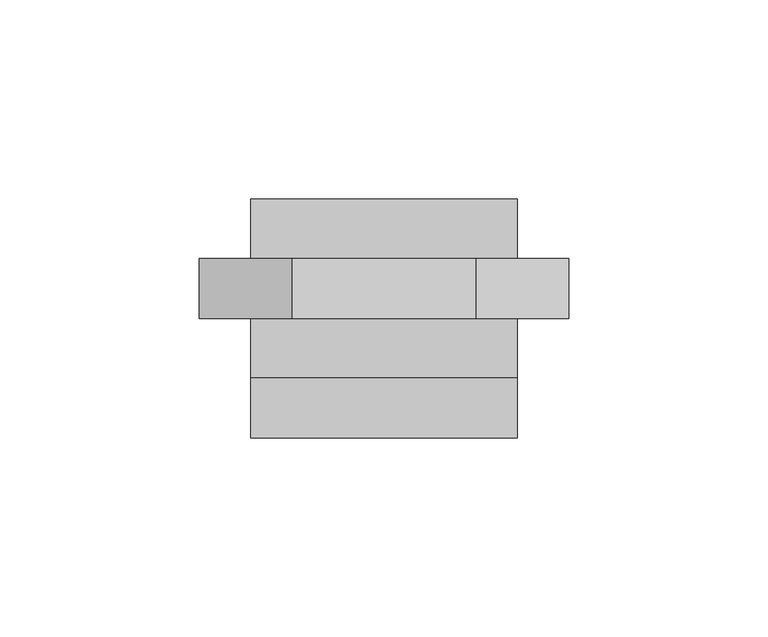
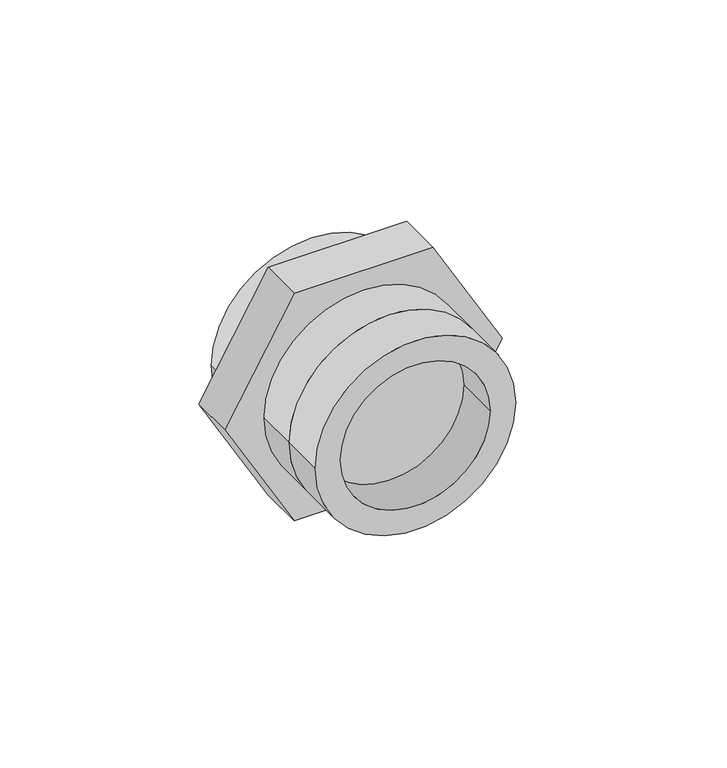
"""IFC4 building model written with IfcOpenShell, lengths in millimetres: pipe fitting geometry, EGB_VASEN_ PPR_Enlace desmontable soldar soldar WXR109 : Enlace desmontable soldar-soldar WXR109."""

import ifcopenshell
import ifcopenshell.guid

model = None  # the IFC model being written
_history = None  # IfcOwnerHistory: only IFC2X3 demands one
_inside = {}  # id of a spatial element -> (the spatial element, [elements in it])
_under = {}  # id of a project, library or spatial element -> (it, [spatial elements below it])
_declared = {}  # id of a project -> (the project, [libraries it declares])
_typed = {}  # id of a type object -> (the type object, [elements of that type])
_made_of = {}  # id of a material, layer set ... -> (it, [elements and type objects made of it])


def new_model(schema):
    """Start an empty IFC model of exactly this schema.

    Asked for "IFC4X3", IfcOpenShell would pick the latest addendum, in which some entities
    have other attributes; the version numbers below select the first issue.
    IFC2X3 requires an IfcOwnerHistory on every rooted entity: one is made here for all.
    """
    global model, _history
    if schema == "IFC4X3":
        model = ifcopenshell.file(schema_version=(4, 3, 0, 0))
    else:
        model = ifcopenshell.file(schema=schema)
    _inside.clear()
    _under.clear()
    _declared.clear()
    _typed.clear()
    _made_of.clear()
    _history = None
    if model.schema == "IFC2X3":
        org = make("IfcOrganization", Name="unknown")
        user = make(
            "IfcPersonAndOrganization",
            ThePerson=make("IfcPerson", FamilyName="unknown"),
            TheOrganization=org,
        )
        app = make(
            "IfcApplication",
            ApplicationDeveloper=org,
            Version="unknown",
            ApplicationFullName="unknown",
            ApplicationIdentifier="unknown",
        )
        _history = make(
            "IfcOwnerHistory",
            OwningUser=user,
            OwningApplication=app,
            ChangeAction="ADDED",
            CreationDate=0,
        )
    return model


def make(cls, **values):
    """One entity of the class cls with the attributes given. An attribute that is None is left unset."""
    return model.create_entity(
        cls, **{name: value for name, value in values.items() if value is not None}
    )


def rooted(cls, **values):
    """An entity with a GlobalId (a new one), such as an element, a storey or a relation."""
    return make(cls, GlobalId=ifcopenshell.guid.new(), OwnerHistory=_history, **values)


def si_unit(unit_type, name, prefix=None):
    """IfcSIUnit, for example si_unit("LENGTHUNIT", "METRE", prefix="MILLI")."""
    return make("IfcSIUnit", UnitType=unit_type, Prefix=prefix, Name=name)


def assignment(units):
    """IfcUnitAssignment: the units of a project."""
    return None if units is None else make("IfcUnitAssignment", Units=units)


def point(xyz):
    """IfcCartesianPoint."""
    return None if xyz is None else make("IfcCartesianPoint", Coordinates=xyz)


def direction(xyz):
    """IfcDirection."""
    return None if xyz is None else make("IfcDirection", DirectionRatios=xyz)


def frame(location, z_axis=None, x_axis=None):
    """IfcAxis2Placement3D, a coordinate frame: its origin and axes. An axis left out is left unset."""
    return make(
        "IfcAxis2Placement3D",
        Location=point(location),
        Axis=direction(z_axis),
        RefDirection=direction(x_axis),
    )


def frame_2d(location, x_axis=None):
    """IfcAxis2Placement2D, a coordinate frame in the plane: its origin and x axis."""
    return make(
        "IfcAxis2Placement2D", Location=point(location), RefDirection=direction(x_axis)
    )


def origin():
    """The frame at (0, 0, 0) with its axes left unset."""
    return frame((0.0, 0.0, 0.0))


def origin_2d():
    """The frame at (0, 0) in the plane with its x axis left unset."""
    return frame_2d((0.0, 0.0))


def place(relative_to, where):
    """IfcLocalPlacement: puts the frame where relative to a parent placement (None: the world)."""
    return make(
        "IfcLocalPlacement", PlacementRelTo=relative_to, RelativePlacement=where
    )


def context(
    kind, dimensions, precision=None, world=None, true_north=None, identifier=None
):
    """IfcGeometricRepresentationContext, for example the 3D "Model" context."""
    return make(
        "IfcGeometricRepresentationContext",
        ContextIdentifier=identifier,
        ContextType=kind,
        CoordinateSpaceDimension=dimensions,
        Precision=precision,
        WorldCoordinateSystem=world,
        TrueNorth=true_north,
    )


def project(units=None, contexts=None):
    """IfcProject with its units and contexts."""
    return rooted(
        "IfcProject",
        Name="project",
        RepresentationContexts=contexts,
        UnitsInContext=assignment(units),
    )


def spatial(cls, under=None, at=None, **own):
    """A site, building, storey or space (cls), placed at a placement, below another one or the project."""
    s = rooted(cls, ObjectPlacement=at, **own)
    if under is not None:
        _under.setdefault(under.id(), (under, []))[1].append(s)
    return s


def polyline(points):
    """IfcPolyline through the points."""
    return make("IfcPolyline", Points=[point(p) for p in points])


def circle_curve(where, radius):
    """IfcCircle in the frame where."""
    return make("IfcCircle", Position=where, Radius=radius)


def trimmed(basis, trim1, trim2, sense, master):
    """IfcTrimmedCurve: the piece of a basis curve between two trims."""
    return make(
        "IfcTrimmedCurve",
        BasisCurve=basis,
        Trim1=trim1,
        Trim2=trim2,
        SenseAgreement=sense,
        MasterRepresentation=master,
    )


def segment(curve, same_sense, transition):
    """IfcCompositeCurveSegment."""
    return make(
        "IfcCompositeCurveSegment",
        Transition=transition,
        SameSense=same_sense,
        ParentCurve=curve,
    )


def composite_curve(segments, self_intersect=None):
    """IfcCompositeCurve: segments joined end to end."""
    return make("IfcCompositeCurve", Segments=segments, SelfIntersect=self_intersect)


def outline(outer, holes=None, kind="AREA"):
    """IfcArbitraryClosedProfileDef: a profile drawn as a closed curve; with holes, ...WithVoids."""
    if holes is None:
        return make("IfcArbitraryClosedProfileDef", ProfileType=kind, OuterCurve=outer)
    return make(
        "IfcArbitraryProfileDefWithVoids",
        ProfileType=kind,
        OuterCurve=outer,
        InnerCurves=holes,
    )


def extrude(swept, where, along, depth):
    """IfcExtrudedAreaSolid: the profile swept, set in the frame where, extruded along a direction by depth."""
    return make(
        "IfcExtrudedAreaSolid",
        SweptArea=swept,
        Position=where,
        ExtrudedDirection=direction(along),
        Depth=depth,
    )


def shape(context_of_items, identifier, shape_type, items):
    """IfcShapeRepresentation: the items that make up one representation, for example the "Body"."""
    return make(
        "IfcShapeRepresentation",
        ContextOfItems=context_of_items,
        RepresentationIdentifier=identifier,
        RepresentationType=shape_type,
        Items=items,
    )


def source(mapping_origin, context_of_items, identifier, shape_type, items):
    """IfcRepresentationMap: a shape defined once, which mapped items show again and again."""
    return make(
        "IfcRepresentationMap",
        MappingOrigin=mapping_origin,
        MappedRepresentation=shape(context_of_items, identifier, shape_type, items),
    )


def transform(
    local_origin,
    x_axis=None,
    y_axis=None,
    z_axis=None,
    scale=None,
    scale2=None,
    scale3=None,
    uniform=True,
):
    """IfcCartesianTransformationOperator3D, or its non-uniform kind. x_axis, y_axis, z_axis: its Axis1, 2, 3."""
    if uniform:
        return make(
            "IfcCartesianTransformationOperator3D",
            Axis1=direction(x_axis),
            Axis2=direction(y_axis),
            LocalOrigin=point(local_origin),
            Scale=scale,
            Axis3=direction(z_axis),
        )
    return make(
        "IfcCartesianTransformationOperator3DnonUniform",
        Axis1=direction(x_axis),
        Axis2=direction(y_axis),
        LocalOrigin=point(local_origin),
        Scale=scale,
        Axis3=direction(z_axis),
        Scale2=scale2,
        Scale3=scale3,
    )


def mapped(mapping_source, mapping_target):
    """IfcMappedItem: shows the shape of a source again, moved by a transform."""
    return make(
        "IfcMappedItem", MappingSource=mapping_source, MappingTarget=mapping_target
    )


def made_of(thing, what):
    """Note that an element or type object is made of a material, layer set ...; save() writes the relation."""
    if what is not None:
        _made_of.setdefault(what.id(), (what, []))[1].append(thing)
    return thing


def element(
    cls,
    number,
    at=None,
    inside=None,
    cuts=None,
    type_object=None,
    material=None,
    context=None,
    identifier="Body",
    shape_type=None,
    held_by="IfcProductDefinitionShape",
    body=None,
    shapes=None,
    **own,
):
    """One element of the class cls, such as IfcWall. Its Tag is "e" and its number.

    at: its placement. inside: the storey or other place that contains it. cuts: it is an
    opening in that element (IfcRelVoidsElement). A single representation is given by context,
    identifier, shape_type and body (its items); several are given by shapes. held_by: the class
    of the entity that holds the representations. save() writes the other relations.
    """
    e = rooted(cls, Tag="e%d" % number, ObjectPlacement=at, **own)
    if body is not None:
        shapes = [shape(context, identifier, shape_type, body)]
    if shapes is not None:
        e.Representation = make(held_by, Representations=shapes)
    if inside is not None:
        _inside.setdefault(inside.id(), (inside, []))[1].append(e)
    if cuts is not None:
        rooted(
            "IfcRelVoidsElement", RelatingBuildingElement=cuts, RelatedOpeningElement=e
        )
    if type_object is not None:
        _typed.setdefault(type_object.id(), (type_object, []))[1].append(e)
    return made_of(e, material)


def aggregate(whole, parts):
    """IfcRelAggregates: a whole, such as a stair, and the parts it consists of."""
    return rooted("IfcRelAggregates", RelatingObject=whole, RelatedObjects=parts)


def save(model, path):
    """Write the relations noted so far, then the file.

    IfcRelAggregates (storeys below a building ...), IfcRelContainedInSpatialStructure (elements
    in a storey), IfcRelDefinesByType, IfcRelAssociatesMaterial and IfcRelDeclares: one each for
    every whole, place, type object, material and project.
    """
    for whole, parts in _under.values():
        aggregate(whole, parts)
    for where, things in _inside.values():
        rooted(
            "IfcRelContainedInSpatialStructure",
            RelatedElements=things,
            RelatingStructure=where,
        )
    for kind, things in _typed.values():
        rooted("IfcRelDefinesByType", RelatedObjects=things, RelatingType=kind)
    for what, things in _made_of.values():
        rooted("IfcRelAssociatesMaterial", RelatedObjects=things, RelatingMaterial=what)
    for by, libraries in _declared.values():
        rooted("IfcRelDeclares", RelatingContext=by, RelatedDefinitions=libraries)
    model.write(path)


def pipe_fitting_758442aa(model_context):
    return source(origin(), model_context, "Body", "SweptSolid", [
        extrude(outline(polyline([(0.0, 46.4189616), (40.2, 23.2094808), (40.2, -23.2094808), (0.0, -46.4189616), (-40.2, -23.2094808), (-40.2, 23.2094808), (0.0, 46.4189616)])), frame((0.0, -2.85625, 0.0), z_axis=(0.0, 1.0, 0.0), x_axis=(0.0, 0.0, 1.0)), (0.0, 0.0, 1.0), 15.0),
        extrude(outline(composite_curve([segment(trimmed(circle_curve(origin_2d(), 33.5), [point((0.0, -33.5))], [point((0.0, 33.5))], False, "CARTESIAN"), True, "CONTINUOUS"), segment(trimmed(circle_curve(origin_2d(), 33.5), [point((0.0, 33.5))], [point((0.0, -33.5))], False, "CARTESIAN"), True, "CONTINUOUS")], self_intersect=False), holes=[composite_curve([segment(trimmed(circle_curve(origin_2d(), 25.0), [point((0.0, -25.0))], [point((0.0, 25.0))], True, "CARTESIAN"), True, "CONTINUOUS"), segment(trimmed(circle_curve(origin_2d(), 25.0), [point((0.0, 25.0))], [point((0.0, -25.0))], True, "CARTESIAN"), True, "CONTINUOUS")], self_intersect=False)]), frame((0.0, -32.85625, 0.0), z_axis=(0.0, 1.0, 0.0), x_axis=(0.0, 0.0, 1.0)), (0.0, 0.0, 1.0), 15.0),
        extrude(outline(composite_curve([segment(trimmed(circle_curve(origin_2d(), 33.5), [point((0.0, -33.5))], [point((0.0, 33.5))], False, "CARTESIAN"), True, "CONTINUOUS"), segment(trimmed(circle_curve(origin_2d(), 33.5), [point((0.0, 33.5))], [point((0.0, -33.5))], False, "CARTESIAN"), True, "CONTINUOUS")], self_intersect=False), holes=[composite_curve([segment(trimmed(circle_curve(origin_2d(), 25.0), [point((0.0, -25.0))], [point((0.0, 25.0))], True, "CARTESIAN"), True, "CONTINUOUS"), segment(trimmed(circle_curve(origin_2d(), 25.0), [point((0.0, 25.0))], [point((0.0, -25.0))], True, "CARTESIAN"), True, "CONTINUOUS")], self_intersect=False)]), frame((0.0, 12.14375, 0.0), z_axis=(0.0, 1.0, 0.0), x_axis=(0.0, 0.0, 1.0)), (0.0, 0.0, 1.0), 15.0),
        extrude(outline(composite_curve([segment(trimmed(circle_curve(origin_2d(), 33.5), [point((0.0, -33.5))], [point((0.0, 33.5))], False, "CARTESIAN"), True, "CONTINUOUS"), segment(trimmed(circle_curve(origin_2d(), 33.5), [point((0.0, 33.5))], [point((0.0, -33.5))], False, "CARTESIAN"), True, "CONTINUOUS")], self_intersect=False)), frame((0.0, -17.85625, 0.0), z_axis=(0.0, 1.0, 0.0), x_axis=(0.0, 0.0, 1.0)), (0.0, 0.0, 1.0), 15.0),
    ])


if __name__ == "__main__":
    model = new_model("IFC4")
    model_context = context("Model", 3, world=origin())
    ifc_project = project(units=[si_unit("LENGTHUNIT", "METRE", prefix="MILLI")], contexts=[model_context])
    site = spatial("IfcSite", under=ifc_project)
    building = spatial("IfcBuilding", under=site)
    placement = place(None, origin())
    pipe_fitting_shape = pipe_fitting_758442aa(model_context)
    element("IfcPipeFitting", 1, ObjectType="EGB_VASEN_ PPR_Enlace desmontable soldar soldar WXR109 : Enlace desmontable soldar-soldar WXR109", at=placement, inside=building, context=model_context, shape_type="MappedRepresentation", body=[
        mapped(pipe_fitting_shape, transform((0.0, 0.0, 0.0), x_axis=(1.0, 0.0, 0.0), y_axis=(0.0, 1.0, 0.0), z_axis=(0.0, 0.0, 1.0))),
    ])
    save(model, "model.ifc")
